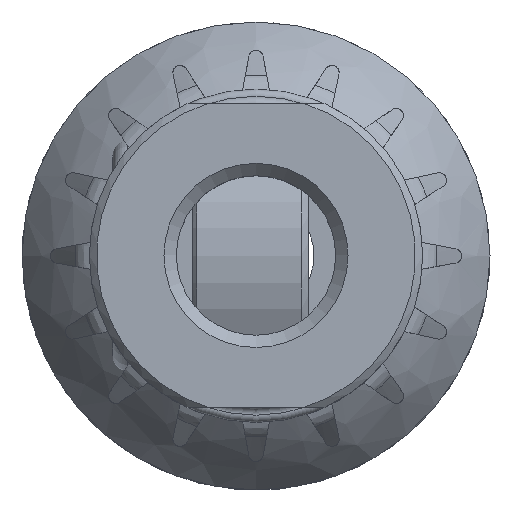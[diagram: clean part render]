
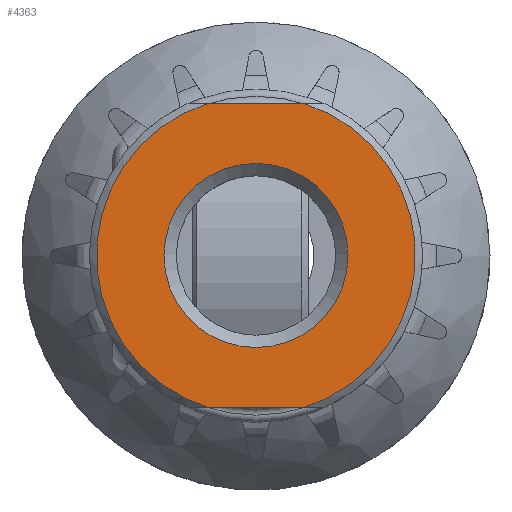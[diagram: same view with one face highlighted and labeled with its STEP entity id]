
A CAD part, top view. The second image highlights one B-rep face of the part: STEP entity #4363.
In plain terms, the highlighted planar face has unit normal (0, 0, 1) as drawn and (1, 0, 0) by its records, which use the part's own axes.
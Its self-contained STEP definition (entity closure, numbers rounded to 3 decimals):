
#4363 = ADVANCED_FACE( '', ( #7097, #7098 ), #7099, .T. );
#7097 = FACE_OUTER_BOUND( '', #8932, .T. );
#7098 = FACE_BOUND( '', #8933, .T. );
#7099 = PLANE( '', #8934 );
#8932 = EDGE_LOOP( '', ( #13482, #13483, #13484, #13485 ) );
#8933 = EDGE_LOOP( '', ( #13486 ) );
#8934 = AXIS2_PLACEMENT_3D( '', #13487, #13488, #13489 );
#13482 = ORIENTED_EDGE( '', *, *, #20306, .F. );
#13483 = ORIENTED_EDGE( '', *, *, #20311, .F. );
#13484 = ORIENTED_EDGE( '', *, *, #20312, .F. );
#13485 = ORIENTED_EDGE( '', *, *, #20313, .F. );
#13486 = ORIENTED_EDGE( '', *, *, #20314, .T. );
#13487 = CARTESIAN_POINT( '', ( 3.619, 0., 6.35 ) );
#13488 = DIRECTION( '', ( 1., 0., 0. ) );
#13489 = DIRECTION( '', ( 0., 0., -1. ) );
#20306 = EDGE_CURVE( '', #22908, #22910, #22911, .T. );
#20311 = EDGE_CURVE( '', #22917, #22908, #22918, .T. );
#20312 = EDGE_CURVE( '', #22919, #22917, #22920, .T. );
#20313 = EDGE_CURVE( '', #22910, #22919, #22921, .T. );
#20314 = EDGE_CURVE( '', #22922, #22922, #22923, .T. );
#22908 = VERTEX_POINT( '', #28247 );
#22910 = VERTEX_POINT( '', #28252 );
#22911 = LINE( '', #28253, #28254 );
#22917 = VERTEX_POINT( '', #28266 );
#22918 = CIRCLE( '', #28267, 11. );
#22919 = VERTEX_POINT( '', #28268 );
#22920 = LINE( '', #28269, #28270 );
#22921 = CIRCLE( '', #28271, 11. );
#22922 = VERTEX_POINT( '', #28272 );
#22923 = CIRCLE( '', #28273, 6.35 );
#28247 = CARTESIAN_POINT( '', ( 3.619, -10.5, -3.279 ) );
#28252 = CARTESIAN_POINT( '', ( 3.619, -10.5, 3.279 ) );
#28253 = CARTESIAN_POINT( '', ( 3.619, -10.5, -6.692 ) );
#28254 = VECTOR( '', #29277, 1000. );
#28266 = CARTESIAN_POINT( '', ( 3.619, 10.5, -3.279 ) );
#28267 = AXIS2_PLACEMENT_3D( '', #29281, #29282, #29283 );
#28268 = CARTESIAN_POINT( '', ( 3.619, 10.5, 3.279 ) );
#28269 = CARTESIAN_POINT( '', ( 3.619, 10.5, 6.692 ) );
#28270 = VECTOR( '', #29284, 1000. );
#28271 = AXIS2_PLACEMENT_3D( '', #29285, #29286, #29287 );
#28272 = CARTESIAN_POINT( '', ( 3.619, 0., 6.35 ) );
#28273 = AXIS2_PLACEMENT_3D( '', #29288, #29289, #29290 );
#29277 = DIRECTION( '', ( 0., 0., 1. ) );
#29281 = CARTESIAN_POINT( '', ( 3.619, 0., 0. ) );
#29282 = DIRECTION( '', ( -1., 0., 0. ) );
#29283 = DIRECTION( '', ( 0., 0., 1. ) );
#29284 = DIRECTION( '', ( 0., 0., -1. ) );
#29285 = CARTESIAN_POINT( '', ( 3.619, 0., 0. ) );
#29286 = DIRECTION( '', ( -1., 0., 0. ) );
#29287 = DIRECTION( '', ( 0., 0., 1. ) );
#29288 = CARTESIAN_POINT( '', ( 3.619, 0., 0. ) );
#29289 = DIRECTION( '', ( -1., 0., 0. ) );
#29290 = DIRECTION( '', ( 0., 0., 1. ) );
